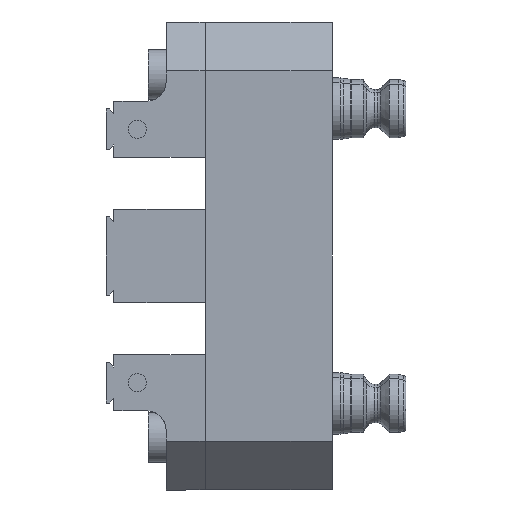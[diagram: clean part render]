
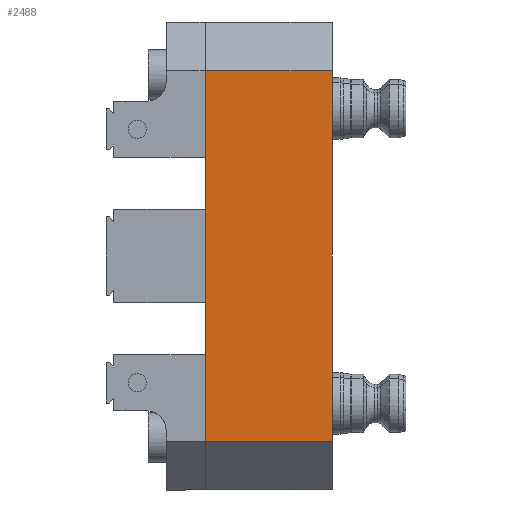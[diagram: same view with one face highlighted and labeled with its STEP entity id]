
A CAD part, left-side view. The second image highlights one B-rep face of the part: STEP entity #2488.
In plain terms, the highlighted planar face has unit normal (-1, 0, 0).
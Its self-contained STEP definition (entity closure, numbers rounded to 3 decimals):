
#141 = ORIENTED_EDGE ( 'NONE', *, *, #6755, .F. ) ;
#156 = VERTEX_POINT ( 'NONE', #11675 ) ;
#200 = VECTOR ( 'NONE', #12815, 1000. ) ;
#586 = DIRECTION ( 'NONE',  ( 0., 0., -1. ) ) ;
#750 = CARTESIAN_POINT ( 'NONE',  ( 0., 0., 152.4 ) ) ;
#826 = EDGE_CURVE ( 'NONE', #9504, #7847, #5058, .T. ) ;
#939 = CARTESIAN_POINT ( 'NONE',  ( 0., 0., 152.4 ) ) ;
#966 = VECTOR ( 'NONE', #586, 1000. ) ;
#2488 = ADVANCED_FACE ( 'NONE', ( #5691 ), #10160, .F. ) ;
#2977 = CARTESIAN_POINT ( 'NONE',  ( 0., 0., 136.525 ) ) ;
#2978 = VECTOR ( 'NONE', #11010, 1000. ) ;
#3069 = LINE ( 'NONE', #11891, #966 ) ;
#3108 = DIRECTION ( 'NONE',  ( 0., 0., -1. ) ) ;
#3671 = ORIENTED_EDGE ( 'NONE', *, *, #12905, .T. ) ;
#5058 = LINE ( 'NONE', #5659, #2978 ) ;
#5659 = CARTESIAN_POINT ( 'NONE',  ( 0., 0., 15.875 ) ) ;
#5691 = FACE_OUTER_BOUND ( 'NONE', #13004, .T. ) ;
#6075 = VECTOR ( 'NONE', #14109, 1000. ) ;
#6108 = CARTESIAN_POINT ( 'NONE',  ( 0., 0., 15.875 ) ) ;
#6402 = LINE ( 'NONE', #750, #6075 ) ;
#6533 = CARTESIAN_POINT ( 'NONE',  ( 0., 41.275, 15.875 ) ) ;
#6755 = EDGE_CURVE ( 'NONE', #156, #9504, #6402, .T. ) ;
#7847 = VERTEX_POINT ( 'NONE', #6533 ) ;
#9422 = AXIS2_PLACEMENT_3D ( 'NONE', #939, #10827, #3108 ) ;
#9504 = VERTEX_POINT ( 'NONE', #6108 ) ;
#10160 = PLANE ( 'NONE',  #9422 ) ;
#10306 = VERTEX_POINT ( 'NONE', #13205 ) ;
#10827 = DIRECTION ( 'NONE',  ( 1., 0., 0. ) ) ;
#11010 = DIRECTION ( 'NONE',  ( 0., 1., 0. ) ) ;
#11613 = LINE ( 'NONE', #2977, #200 ) ;
#11675 = CARTESIAN_POINT ( 'NONE',  ( 0., 0., 136.525 ) ) ;
#11776 = EDGE_CURVE ( 'NONE', #156, #10306, #11613, .T. ) ;
#11891 = CARTESIAN_POINT ( 'NONE',  ( 0., 41.275, 152.4 ) ) ;
#12677 = ORIENTED_EDGE ( 'NONE', *, *, #826, .F. ) ;
#12815 = DIRECTION ( 'NONE',  ( 0., 1., 0. ) ) ;
#12905 = EDGE_CURVE ( 'NONE', #10306, #7847, #3069, .T. ) ;
#13004 = EDGE_LOOP ( 'NONE', ( #141, #13506, #3671, #12677 ) ) ;
#13205 = CARTESIAN_POINT ( 'NONE',  ( 0., 41.275, 136.525 ) ) ;
#13506 = ORIENTED_EDGE ( 'NONE', *, *, #11776, .T. ) ;
#14109 = DIRECTION ( 'NONE',  ( 0., 0., -1. ) ) ;
